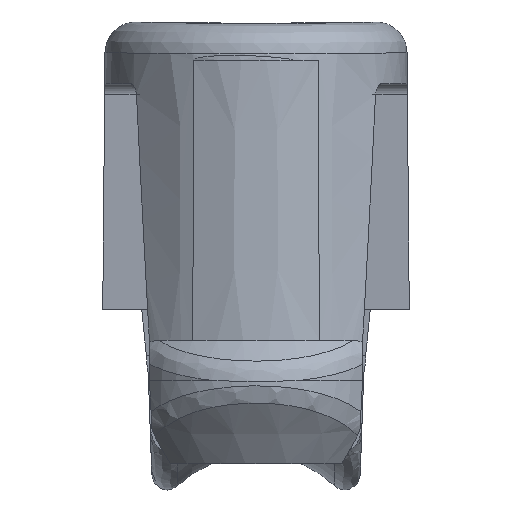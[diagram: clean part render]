
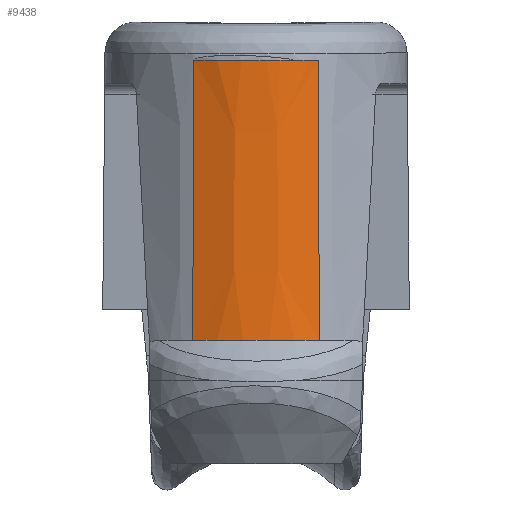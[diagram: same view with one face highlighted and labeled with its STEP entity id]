
A CAD part, front view. The second image highlights one B-rep face of the part: STEP entity #9438.
In plain terms, the highlighted conical face has half-angle 0.5 degrees and reference radius 4.85 mm.
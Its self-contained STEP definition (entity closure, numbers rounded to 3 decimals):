
#89=CONICAL_SURFACE('',#10118,4.85,0.009);
#184=B_SPLINE_CURVE_WITH_KNOTS('',3,(#15193,#15194,#15195,#15196,#15197,
#15198,#15199,#15200,#15201,#15202,#15203,#15204,#15205,#15206,#15207,#15208,
#15209,#15210,#15211,#15212,#15213,#15214,#15215,#15216,#15217),
 .UNSPECIFIED.,.F.,.F.,(4,3,3,3,3,3,3,3,4),(0.362,0.396,
0.429,0.457,0.486,0.515,
0.544,0.573,0.582),.UNSPECIFIED.);
#754=FACE_OUTER_BOUND('',#1259,.T.);
#1259=EDGE_LOOP('',(#6898,#6899,#6900,#6901,#6902));
#1811=CIRCLE('',#10084,4.859);
#1824=CIRCLE('',#10119,4.78);
#2137=LINE('',#15218,#3133);
#2138=LINE('',#15220,#3134);
#3133=VECTOR('',#11388,10.);
#3134=VECTOR('',#11389,10.);
#4185=VERTEX_POINT('',#14232);
#4186=VERTEX_POINT('',#14234);
#4231=VERTEX_POINT('',#15191);
#4232=VERTEX_POINT('',#15192);
#4233=VERTEX_POINT('',#15219);
#5183=EDGE_CURVE('',#4186,#4185,#1811,.T.);
#5239=EDGE_CURVE('',#4231,#4232,#184,.T.);
#5240=EDGE_CURVE('',#4231,#4186,#2137,.T.);
#5241=EDGE_CURVE('',#4185,#4233,#2138,.T.);
#5242=EDGE_CURVE('',#4232,#4233,#1824,.T.);
#6898=ORIENTED_EDGE('',*,*,#5239,.F.);
#6899=ORIENTED_EDGE('',*,*,#5240,.T.);
#6900=ORIENTED_EDGE('',*,*,#5183,.T.);
#6901=ORIENTED_EDGE('',*,*,#5241,.T.);
#6902=ORIENTED_EDGE('',*,*,#5242,.F.);
#9438=ADVANCED_FACE('',(#754),#89,.T.);
#10084=AXIS2_PLACEMENT_3D('',#14235,#11310,#11311);
#10118=AXIS2_PLACEMENT_3D('',#15190,#11386,#11387);
#10119=AXIS2_PLACEMENT_3D('',#15221,#11390,#11391);
#11310=DIRECTION('center_axis',(0.,0.,
1.));
#11311=DIRECTION('ref_axis',(-0.707,-0.707,0.));
#11386=DIRECTION('center_axis',(0.,0.,
-1.));
#11387=DIRECTION('ref_axis',(-1.,0.,0.));
#11388=DIRECTION('',(-0.004,-0.008,-1.));
#11389=DIRECTION('',(-0.004,0.008,1.));
#11390=DIRECTION('center_axis',(-0.005,-0.002,
1.));
#11391=DIRECTION('ref_axis',(0.421,-0.907,0.001));
#14232=CARTESIAN_POINT('',(2.062,-19.408,-1.));
#14234=CARTESIAN_POINT('',(-2.027,-19.408,-1.));
#14235=CARTESIAN_POINT('Origin',(0.017,-15.,-1.));
#15190=CARTESIAN_POINT('Origin',(0.017,-15.,0.));
#15191=CARTESIAN_POINT('',(-1.988,-19.339,8.044));
#15192=CARTESIAN_POINT('',(1.23,-19.624,8.04));
#15193=CARTESIAN_POINT('Ctrl Pts',(-1.988,-19.339,8.044));
#15194=CARTESIAN_POINT('Ctrl Pts',(-1.837,-19.408,
8.043));
#15195=CARTESIAN_POINT('Ctrl Pts',(-1.683,-19.47,
8.042));
#15196=CARTESIAN_POINT('Ctrl Pts',(-1.525,-19.524,
8.041));
#15197=CARTESIAN_POINT('Ctrl Pts',(-1.37,-19.577,
8.04));
#15198=CARTESIAN_POINT('Ctrl Pts',(-1.211,-19.622,
8.039));
#15199=CARTESIAN_POINT('Ctrl Pts',(-1.051,-19.659,
8.038));
#15200=CARTESIAN_POINT('Ctrl Pts',(-0.91,-19.691,
8.038));
#15201=CARTESIAN_POINT('Ctrl Pts',(-0.769,-19.717,
8.038));
#15202=CARTESIAN_POINT('Ctrl Pts',(-0.626,-19.736,8.037));
#15203=CARTESIAN_POINT('Ctrl Pts',(-0.483,-19.756,
8.037));
#15204=CARTESIAN_POINT('Ctrl Pts',(-0.339,-19.769,
8.037));
#15205=CARTESIAN_POINT('Ctrl Pts',(-0.195,-19.775,
8.037));
#15206=CARTESIAN_POINT('Ctrl Pts',(-0.051,-19.782,
8.037));
#15207=CARTESIAN_POINT('Ctrl Pts',(0.093,-19.781,
8.037));
#15208=CARTESIAN_POINT('Ctrl Pts',(0.237,-19.775,
8.037));
#15209=CARTESIAN_POINT('Ctrl Pts',(0.381,-19.768,
8.037));
#15210=CARTESIAN_POINT('Ctrl Pts',(0.525,-19.755,
8.037));
#15211=CARTESIAN_POINT('Ctrl Pts',(0.668,-19.735,
8.038));
#15212=CARTESIAN_POINT('Ctrl Pts',(0.81,-19.716,
8.038));
#15213=CARTESIAN_POINT('Ctrl Pts',(0.952,-19.69,
8.039));
#15214=CARTESIAN_POINT('Ctrl Pts',(1.093,-19.657,8.039));
#15215=CARTESIAN_POINT('Ctrl Pts',(1.138,-19.647,8.039));
#15216=CARTESIAN_POINT('Ctrl Pts',(1.184,-19.636,8.04));
#15217=CARTESIAN_POINT('Ctrl Pts',(1.23,-19.624,8.04));
#15218=CARTESIAN_POINT('',(-1.994,-19.336,8.044));
#15219=CARTESIAN_POINT('',(2.029,-19.336,8.044));
#15220=CARTESIAN_POINT('',(2.062,-19.408,-1.));
#15221=CARTESIAN_POINT('Origin',(0.017,-15.,8.041));
